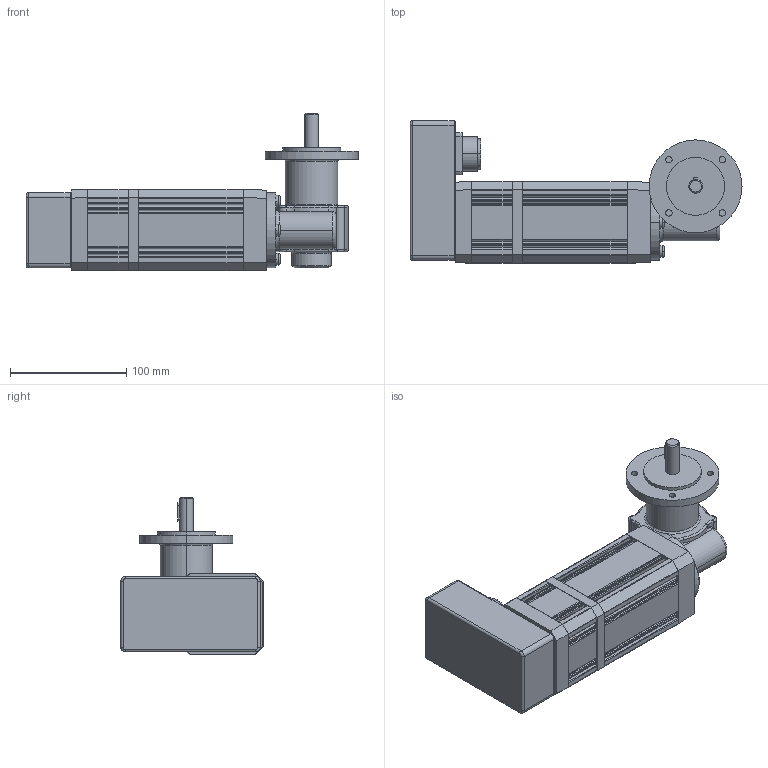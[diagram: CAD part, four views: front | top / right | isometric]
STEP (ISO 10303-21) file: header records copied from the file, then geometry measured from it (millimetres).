
FILE_DESCRIPTION(('OneSpaceDesigner STEP Export'),'2;1');
FILE_NAME('UECG303THL_GF127-10_F.stp','2008-06-25T 8:38:14',(''),(''),'OneSpace Designer STEP processor (Jan. 2003) for AP214(CD)(Solid Model)','OneSpace Designer 12.01D 09-Jul-2004 (C) CoCreate Software GmbH','');
FILE_SCHEMA(('AUTOMOTIVE_DESIGN_CC2 {1 2 10303 214 -1 1 5 1}'));
Length unit declared in the file: millimetre
Products named in the file (2): UECG303THL_GF127-10_F
Assembly tree (1 placements, depth 2):
  UECG303THL_GF127-10_F
    UECG303THL_GF127-10_F
Bounding box: 286 x 122.6 x 136.1 mm (x, y, z)
Volume: 1406556 mm3; surface area: 127729.7 mm2
Topology: 1 solids, 1 shells, 479 faces, 1291 edges, 832 vertices
Faces by surface type: cylinder 219, plane 182, torus 74, cone 4
Entity records: 15257 total; most frequent: CARTESIAN_POINT 3661, ORIENTED_EDGE 2582, DIRECTION 2323, EDGE_CURVE 1291, VERTEX_POINT 832, AXIS2_PLACEMENT_3D 827, VECTOR 669, LINE 669
